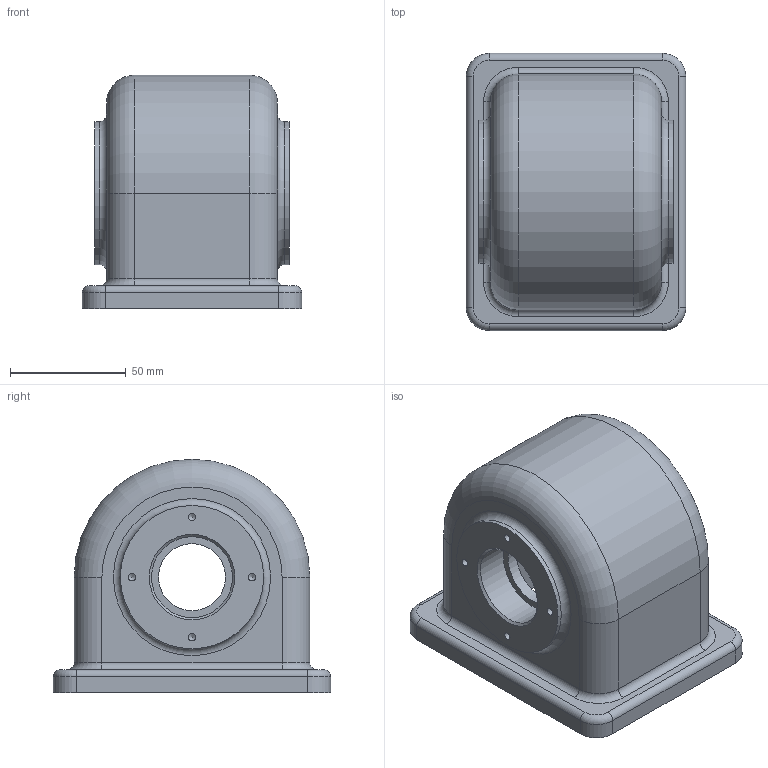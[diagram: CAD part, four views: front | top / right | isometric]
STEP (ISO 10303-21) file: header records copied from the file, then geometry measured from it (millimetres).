
FILE_DESCRIPTION((''),'2;1');
FILE_NAME('C:\Users\05-01\Desktop\380736E1011\380736E1011-본체.stp','2018-07-21T17:10:44',('05-01'),(''),'Autodesk Inventor 2013','Autodesk Inventor 2013','');
FILE_SCHEMA(('AUTOMOTIVE_DESIGN { 1 0 10303 214 1 1 1 1 }'));
Length unit declared in the file: millimetre
Products named in the file (1): 380736E1011-본체
Bounding box: 95 x 120 x 101 mm (x, y, z)
Volume: 337006.6 mm3; surface area: 76819.6 mm2
Topology: 1 solids, 1 shells, 85 faces, 187 edges, 112 vertices
Faces by surface type: cylinder 38, plane 20, torus 17, cone 10
Full cylindrical faces by diameter (mm): 3.242 x8, 29 x1, 35 x1, 36 x1, 42 x1, 62 x4
Entity records: 2130 total; most frequent: DIRECTION 414, CARTESIAN_POINT 336, ORIENTED_EDGE 294, AXIS2_PLACEMENT_3D 181, EDGE_CURVE 147, EDGE_LOOP 128, VERTEX_POINT 103, CIRCLE 95
